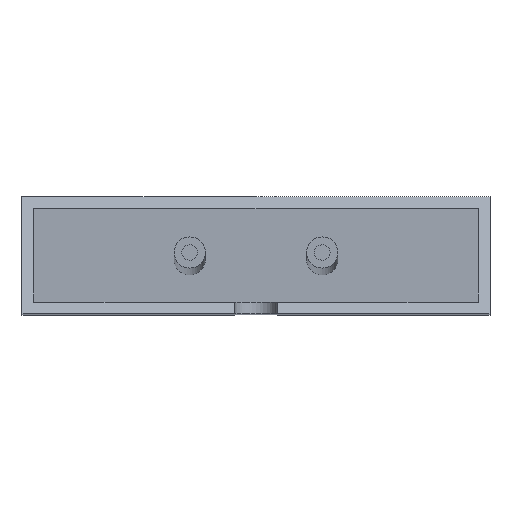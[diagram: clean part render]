
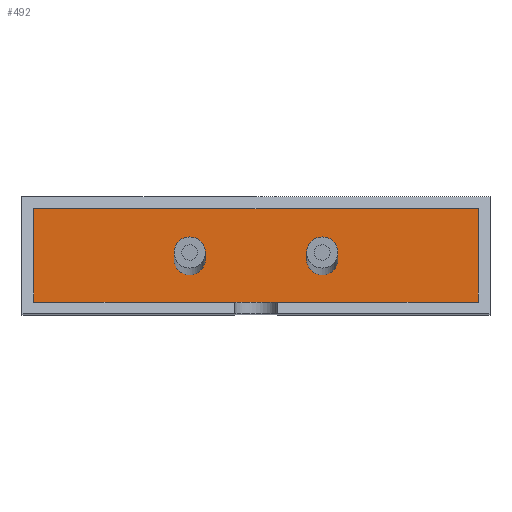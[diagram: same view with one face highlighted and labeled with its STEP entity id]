
A CAD part, top view. The second image highlights one B-rep face of the part: STEP entity #492.
In plain terms, the highlighted planar face has unit normal (0, 0, 1).
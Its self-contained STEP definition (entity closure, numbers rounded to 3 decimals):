
#16=LINE($,#723,#66);
#17=LINE($,#725,#67);
#18=LINE($,#727,#68);
#19=LINE($,#728,#69);
#66=VECTOR($,#596,57.);
#67=VECTOR($,#597,12.);
#68=VECTOR($,#598,57.);
#69=VECTOR($,#599,12.);
#117=PLANE($,#531);
#142=FACE_BOUND($,#185,.T.);
#143=FACE_BOUND($,#186,.T.);
#144=FACE_BOUND($,#187,.T.);
#185=EDGE_LOOP($,(#342));
#186=EDGE_LOOP($,(#343));
#187=EDGE_LOOP($,(#344,#345,#346,#347));
#209=CIRCLE($,#520,2.);
#213=CIRCLE($,#528,2.);
#221=VERTEX_POINT($,#696);
#225=VERTEX_POINT($,#708);
#230=VERTEX_POINT($,#721);
#231=VERTEX_POINT($,#722);
#232=VERTEX_POINT($,#724);
#233=VERTEX_POINT($,#726);
#265=EDGE_CURVE($,#221,#221,#209,.T.);
#269=EDGE_CURVE($,#225,#225,#213,.T.);
#274=EDGE_CURVE($,#230,#231,#16,.T.);
#275=EDGE_CURVE($,#232,#230,#17,.T.);
#276=EDGE_CURVE($,#233,#232,#18,.T.);
#277=EDGE_CURVE($,#231,#233,#19,.T.);
#342=ORIENTED_EDGE($,*,*,#265,.T.);
#343=ORIENTED_EDGE($,*,*,#269,.T.);
#344=ORIENTED_EDGE($,*,*,#274,.F.);
#345=ORIENTED_EDGE($,*,*,#275,.F.);
#346=ORIENTED_EDGE($,*,*,#276,.F.);
#347=ORIENTED_EDGE($,*,*,#277,.F.);
#492=ADVANCED_FACE($,(#142,#143,#144),#117,.T.);
#520=AXIS2_PLACEMENT_3D($,#697,#568,#569);
#528=AXIS2_PLACEMENT_3D($,#709,#584,#585);
#531=AXIS2_PLACEMENT_3D($,#720,#594,#595);
#568=DIRECTION('center_axis',(0.,0.,
-1.));
#569=DIRECTION('ref_axis',(-1.,0.,0.));
#584=DIRECTION('center_axis',(0.,0.,
-1.));
#585=DIRECTION('ref_axis',(-1.,0.,0.));
#594=DIRECTION('center_axis',(0.,0.,
1.));
#595=DIRECTION('ref_axis',(1.,0.,0.));
#596=DIRECTION($,(1.,0.,0.));
#597=DIRECTION($,(0.,1.,0.));
#598=DIRECTION($,(-1.,0.,0.));
#599=DIRECTION($,(0.,-1.,0.));
#696=CARTESIAN_POINT('',(-0.078,3.909,41.621));
#697=CARTESIAN_POINT('Origin',(-2.078,3.909,41.621));
#708=CARTESIAN_POINT('',(16.922,3.909,41.621));
#709=CARTESIAN_POINT('Origin',(14.922,3.909,41.621));
#720=CARTESIAN_POINT('Origin',(6.422,4.409,41.621));
#721=CARTESIAN_POINT('',(-22.078,10.409,41.621));
#722=CARTESIAN_POINT('',(34.922,10.409,41.621));
#723=CARTESIAN_POINT($,(21.422,10.409,41.621));
#724=CARTESIAN_POINT('',(-22.078,-1.591,41.621));
#725=CARTESIAN_POINT($,(-22.078,8.159,41.621));
#726=CARTESIAN_POINT('',(34.922,-1.591,41.621));
#727=CARTESIAN_POINT($,(-8.578,-1.591,41.621));
#728=CARTESIAN_POINT($,(34.922,0.659,41.621));
